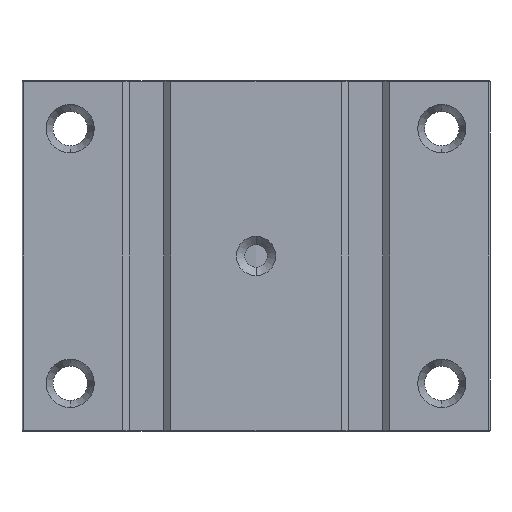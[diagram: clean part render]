
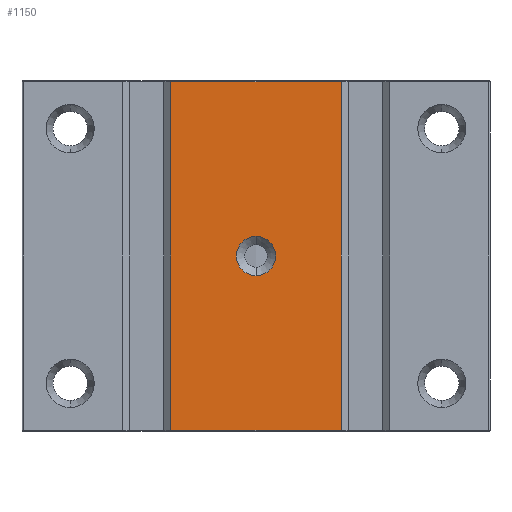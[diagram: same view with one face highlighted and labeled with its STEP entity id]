
A CAD part, front view. The second image highlights one B-rep face of the part: STEP entity #1150.
In plain terms, the highlighted planar face has unit normal (0, -1, 0).
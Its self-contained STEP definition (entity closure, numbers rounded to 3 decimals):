
#102 = CARTESIAN_POINT ( 'NONE',  ( -12.4, -15.5, 50.8 ) ) ;
#138 = EDGE_CURVE ( 'NONE', #14339, #5730, #5354, .T. ) ;
#338 = LINE ( 'NONE', #3195, #3372 ) ;
#475 = ORIENTED_EDGE ( 'NONE', *, *, #138, .T. ) ;
#600 = CARTESIAN_POINT ( 'NONE',  ( -34., -15.5, 0.2 ) ) ;
#797 = LINE ( 'NONE', #6761, #9230 ) ;
#1150 = ADVANCED_FACE ( 'NONE', ( #8065, #1987 ), #13825, .F. ) ;
#1179 = EDGE_LOOP ( 'NONE', ( #1484, #475, #8067, #1208 ) ) ;
#1208 = ORIENTED_EDGE ( 'NONE', *, *, #3683, .T. ) ;
#1484 = ORIENTED_EDGE ( 'NONE', *, *, #6714, .F. ) ;
#1987 = FACE_OUTER_BOUND ( 'NONE', #1179, .T. ) ;
#2215 = CARTESIAN_POINT ( 'NONE',  ( 0., -15.5, 28.35 ) ) ;
#2225 = AXIS2_PLACEMENT_3D ( 'NONE', #10915, #4041, #12079 ) ;
#3127 = EDGE_CURVE ( 'NONE', #13812, #12567, #10580, .T. ) ;
#3195 = CARTESIAN_POINT ( 'NONE',  ( -12.4, -15.5, 50.8 ) ) ;
#3372 = VECTOR ( 'NONE', #4283, 1000. ) ;
#3428 = VECTOR ( 'NONE', #8836, 1000. ) ;
#3683 = EDGE_CURVE ( 'NONE', #8895, #4660, #338, .T. ) ;
#4003 = CARTESIAN_POINT ( 'NONE',  ( 12.4, -15.5, 0.2 ) ) ;
#4041 = DIRECTION ( 'NONE',  ( 0., -1., 0. ) ) ;
#4047 = EDGE_LOOP ( 'NONE', ( #9798, #10225 ) ) ;
#4283 = DIRECTION ( 'NONE',  ( -1., 0., 0. ) ) ;
#4629 = CARTESIAN_POINT ( 'NONE',  ( -12.4, -15.5, 0.2 ) ) ;
#4660 = VERTEX_POINT ( 'NONE', #102 ) ;
#5276 = EDGE_CURVE ( 'NONE', #5730, #8895, #11883, .T. ) ;
#5339 = CIRCLE ( 'NONE', #6642, 2.85 ) ;
#5354 = LINE ( 'NONE', #600, #11094 ) ;
#5730 = VERTEX_POINT ( 'NONE', #4003 ) ;
#5784 = CARTESIAN_POINT ( 'NONE',  ( 0., -15.5, 25.5 ) ) ;
#6122 = CARTESIAN_POINT ( 'NONE',  ( 12.4, -15.5, 50.8 ) ) ;
#6169 = CARTESIAN_POINT ( 'NONE',  ( -34., -15.5, 51. ) ) ;
#6642 = AXIS2_PLACEMENT_3D ( 'NONE', #5784, #13820, #6960 ) ;
#6714 = EDGE_CURVE ( 'NONE', #14339, #4660, #797, .T. ) ;
#6761 = CARTESIAN_POINT ( 'NONE',  ( -12.4, -15.5, 0. ) ) ;
#6960 = DIRECTION ( 'NONE',  ( 0., 0., -1. ) ) ;
#7671 = CARTESIAN_POINT ( 'NONE',  ( 12.4, -15.5, 0. ) ) ;
#8065 = FACE_BOUND ( 'NONE', #4047, .T. ) ;
#8067 = ORIENTED_EDGE ( 'NONE', *, *, #5276, .T. ) ;
#8836 = DIRECTION ( 'NONE',  ( 0., 0., 1. ) ) ;
#8895 = VERTEX_POINT ( 'NONE', #6122 ) ;
#9230 = VECTOR ( 'NONE', #13640, 1000. ) ;
#9798 = ORIENTED_EDGE ( 'NONE', *, *, #11506, .F. ) ;
#10225 = ORIENTED_EDGE ( 'NONE', *, *, #3127, .F. ) ;
#10460 = DIRECTION ( 'NONE',  ( 0., 0., 1. ) ) ;
#10580 = CIRCLE ( 'NONE', #2225, 2.85 ) ;
#10915 = CARTESIAN_POINT ( 'NONE',  ( 0., -15.5, 25.5 ) ) ;
#11094 = VECTOR ( 'NONE', #11996, 1000. ) ;
#11506 = EDGE_CURVE ( 'NONE', #12567, #13812, #5339, .T. ) ;
#11883 = LINE ( 'NONE', #7671, #3428 ) ;
#11996 = DIRECTION ( 'NONE',  ( 1., 0., 0. ) ) ;
#12079 = DIRECTION ( 'NONE',  ( 0., 0., -1. ) ) ;
#12567 = VERTEX_POINT ( 'NONE', #14239 ) ;
#12792 = DIRECTION ( 'NONE',  ( 0., 1., 0. ) ) ;
#13640 = DIRECTION ( 'NONE',  ( 0., 0., 1. ) ) ;
#13699 = AXIS2_PLACEMENT_3D ( 'NONE', #6169, #12792, #10460 ) ;
#13812 = VERTEX_POINT ( 'NONE', #2215 ) ;
#13820 = DIRECTION ( 'NONE',  ( 0., -1., 0. ) ) ;
#13825 = PLANE ( 'NONE',  #13699 ) ;
#14239 = CARTESIAN_POINT ( 'NONE',  ( 0., -15.5, 22.65 ) ) ;
#14339 = VERTEX_POINT ( 'NONE', #4629 ) ;
